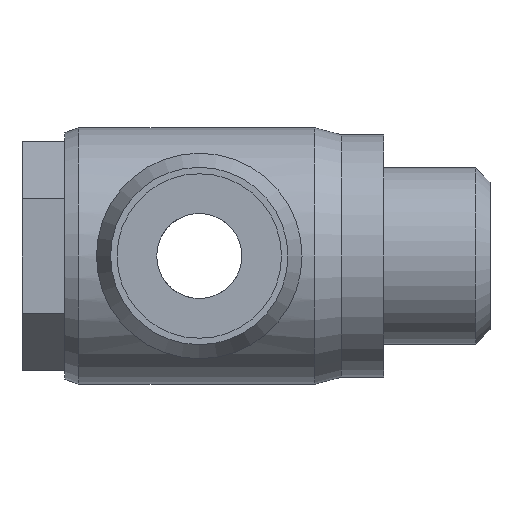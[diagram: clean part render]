
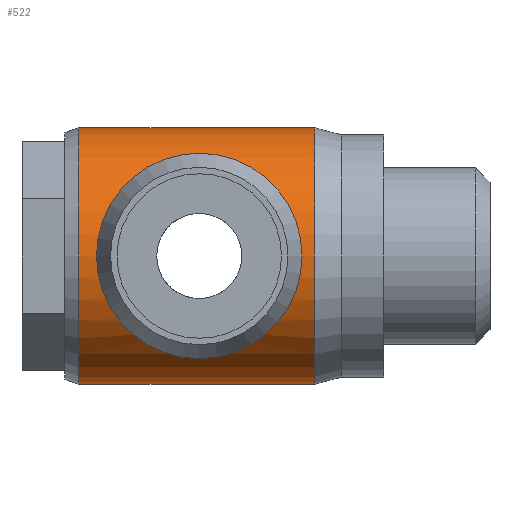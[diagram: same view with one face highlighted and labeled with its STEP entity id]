
A CAD part, left-side view. The second image highlights one B-rep face of the part: STEP entity #522.
In plain terms, the highlighted cylindrical face has radius 9.05 mm (diameter 18.1 mm), a full revolution.
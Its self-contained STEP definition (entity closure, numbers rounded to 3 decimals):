
#71=B_SPLINE_CURVE_WITH_KNOTS($,3,(#921,#922,#923,#924,#925,#926,#927,#928,
#929,#930,#931,#932,#933,#934,#935,#936,#937,#938,#939,#940,#941,#942,#943,
#944,#945,#946,#947,#948,#949,#950,#951,#952,#953,#954),.UNSPECIFIED.,.T.,
 .F.,(4,2,2,2,2,2,2,2,2,2,2,2,2,2,2,2,4),(0.,0.204,0.408,
0.611,0.814,1.017,1.22,1.424,
1.628,1.832,2.036,2.239,2.442,
2.645,2.848,3.052,3.256),
 .UNSPECIFIED.);
#72=B_SPLINE_CURVE_WITH_KNOTS($,3,(#956,#957,#958,#959,#960,#961,#962,#963,
#964,#965,#966,#967,#968,#969,#970,#971,#972,#973,#974,#975,#976,#977,#978,
#979,#980,#981,#982,#983,#984,#985,#986,#987,#988,#989),.UNSPECIFIED.,.T.,
 .F.,(4,2,2,2,2,2,2,2,2,2,2,2,2,2,2,2,4),(0.,0.204,0.408,
0.611,0.814,1.017,1.22,1.424,
1.628,1.832,2.036,2.239,2.442,
2.645,2.848,3.052,3.256),
 .UNSPECIFIED.);
#77=CYLINDRICAL_SURFACE($,#574,9.05);
#114=FACE_BOUND($,#207,.T.);
#115=FACE_BOUND($,#208,.T.);
#116=FACE_BOUND($,#209,.T.);
#117=FACE_BOUND($,#210,.T.);
#207=EDGE_LOOP($,(#439));
#208=EDGE_LOOP($,(#440));
#209=EDGE_LOOP($,(#441));
#210=EDGE_LOOP($,(#442));
#269=CIRCLE($,#575,9.05);
#270=CIRCLE($,#576,9.05);
#314=VERTEX_POINT($,#920);
#315=VERTEX_POINT($,#955);
#316=VERTEX_POINT($,#990);
#317=VERTEX_POINT($,#992);
#367=EDGE_CURVE($,#314,#314,#71,.T.);
#368=EDGE_CURVE($,#315,#315,#72,.T.);
#369=EDGE_CURVE($,#316,#316,#269,.T.);
#370=EDGE_CURVE($,#317,#317,#270,.T.);
#439=ORIENTED_EDGE($,*,*,#367,.F.);
#440=ORIENTED_EDGE($,*,*,#368,.F.);
#441=ORIENTED_EDGE($,*,*,#369,.F.);
#442=ORIENTED_EDGE($,*,*,#370,.T.);
#522=ADVANCED_FACE($,(#114,#115,#116,#117),#77,.T.);
#574=AXIS2_PLACEMENT_3D($,#919,#689,#690);
#575=AXIS2_PLACEMENT_3D($,#991,#691,#692);
#576=AXIS2_PLACEMENT_3D($,#993,#693,#694);
#689=DIRECTION('center_axis',(0.,1.,0.));
#690=DIRECTION('ref_axis',(-1.,0.,0.));
#691=DIRECTION('center_axis',(0.,1.,0.));
#692=DIRECTION('ref_axis',(-1.,0.,0.));
#693=DIRECTION('center_axis',(0.,1.,0.));
#694=DIRECTION('ref_axis',(-1.,0.,0.));
#919=CARTESIAN_POINT('Origin',(0.,0.183,0.));
#920=CARTESIAN_POINT('',(7.372,0.,-5.25));
#921=CARTESIAN_POINT('Ctrl Pts',(7.372,0.,
-5.25));
#922=CARTESIAN_POINT('Ctrl Pts',(7.372,0.68,-5.25));
#923=CARTESIAN_POINT('Ctrl Pts',(7.476,1.389,-5.111));
#924=CARTESIAN_POINT('Ctrl Pts',(7.817,2.675,-4.571));
#925=CARTESIAN_POINT('Ctrl Pts',(8.047,3.254,-4.171));
#926=CARTESIAN_POINT('Ctrl Pts',(8.459,4.168,-3.256));
#927=CARTESIAN_POINT('Ctrl Pts',(8.67,4.57,-2.677));
#928=CARTESIAN_POINT('Ctrl Pts',(8.967,5.111,-1.387));
#929=CARTESIAN_POINT('Ctrl Pts',(9.05,5.25,-0.677));
#930=CARTESIAN_POINT('Ctrl Pts',(9.05,5.25,0.677));
#931=CARTESIAN_POINT('Ctrl Pts',(8.967,5.111,1.387));
#932=CARTESIAN_POINT('Ctrl Pts',(8.67,4.57,2.677));
#933=CARTESIAN_POINT('Ctrl Pts',(8.459,4.168,3.256));
#934=CARTESIAN_POINT('Ctrl Pts',(8.047,3.254,4.171));
#935=CARTESIAN_POINT('Ctrl Pts',(7.817,2.675,4.571));
#936=CARTESIAN_POINT('Ctrl Pts',(7.476,1.389,5.111));
#937=CARTESIAN_POINT('Ctrl Pts',(7.372,0.68,5.25));
#938=CARTESIAN_POINT('Ctrl Pts',(7.372,-0.68,5.25));
#939=CARTESIAN_POINT('Ctrl Pts',(7.476,-1.389,5.111));
#940=CARTESIAN_POINT('Ctrl Pts',(7.817,-2.675,4.571));
#941=CARTESIAN_POINT('Ctrl Pts',(8.047,-3.254,4.171));
#942=CARTESIAN_POINT('Ctrl Pts',(8.459,-4.168,3.256));
#943=CARTESIAN_POINT('Ctrl Pts',(8.67,-4.57,2.677));
#944=CARTESIAN_POINT('Ctrl Pts',(8.967,-5.111,1.387));
#945=CARTESIAN_POINT('Ctrl Pts',(9.05,-5.25,0.677));
#946=CARTESIAN_POINT('Ctrl Pts',(9.05,-5.25,-0.677));
#947=CARTESIAN_POINT('Ctrl Pts',(8.967,-5.111,-1.387));
#948=CARTESIAN_POINT('Ctrl Pts',(8.67,-4.57,-2.677));
#949=CARTESIAN_POINT('Ctrl Pts',(8.459,-4.168,-3.256));
#950=CARTESIAN_POINT('Ctrl Pts',(8.047,-3.254,-4.171));
#951=CARTESIAN_POINT('Ctrl Pts',(7.817,-2.675,-4.571));
#952=CARTESIAN_POINT('Ctrl Pts',(7.476,-1.389,-5.111));
#953=CARTESIAN_POINT('Ctrl Pts',(7.372,-0.68,-5.25));
#954=CARTESIAN_POINT('Ctrl Pts',(7.372,0.,
-5.25));
#955=CARTESIAN_POINT('',(-7.372,0.,-5.25));
#956=CARTESIAN_POINT('Ctrl Pts',(-7.372,0.,
-5.25));
#957=CARTESIAN_POINT('Ctrl Pts',(-7.372,-0.68,-5.25));
#958=CARTESIAN_POINT('Ctrl Pts',(-7.476,-1.389,-5.111));
#959=CARTESIAN_POINT('Ctrl Pts',(-7.817,-2.675,-4.571));
#960=CARTESIAN_POINT('Ctrl Pts',(-8.047,-3.254,-4.171));
#961=CARTESIAN_POINT('Ctrl Pts',(-8.459,-4.168,-3.256));
#962=CARTESIAN_POINT('Ctrl Pts',(-8.67,-4.57,-2.677));
#963=CARTESIAN_POINT('Ctrl Pts',(-8.967,-5.111,-1.387));
#964=CARTESIAN_POINT('Ctrl Pts',(-9.05,-5.25,-0.677));
#965=CARTESIAN_POINT('Ctrl Pts',(-9.05,-5.25,0.677));
#966=CARTESIAN_POINT('Ctrl Pts',(-8.967,-5.111,1.387));
#967=CARTESIAN_POINT('Ctrl Pts',(-8.67,-4.57,2.677));
#968=CARTESIAN_POINT('Ctrl Pts',(-8.459,-4.168,3.256));
#969=CARTESIAN_POINT('Ctrl Pts',(-8.047,-3.254,4.171));
#970=CARTESIAN_POINT('Ctrl Pts',(-7.817,-2.675,4.571));
#971=CARTESIAN_POINT('Ctrl Pts',(-7.476,-1.389,5.111));
#972=CARTESIAN_POINT('Ctrl Pts',(-7.372,-0.68,5.25));
#973=CARTESIAN_POINT('Ctrl Pts',(-7.372,0.68,5.25));
#974=CARTESIAN_POINT('Ctrl Pts',(-7.476,1.389,5.111));
#975=CARTESIAN_POINT('Ctrl Pts',(-7.817,2.675,4.571));
#976=CARTESIAN_POINT('Ctrl Pts',(-8.047,3.254,4.171));
#977=CARTESIAN_POINT('Ctrl Pts',(-8.459,4.168,3.256));
#978=CARTESIAN_POINT('Ctrl Pts',(-8.67,4.57,2.677));
#979=CARTESIAN_POINT('Ctrl Pts',(-8.967,5.111,1.387));
#980=CARTESIAN_POINT('Ctrl Pts',(-9.05,5.25,0.677));
#981=CARTESIAN_POINT('Ctrl Pts',(-9.05,5.25,-0.677));
#982=CARTESIAN_POINT('Ctrl Pts',(-8.967,5.111,-1.387));
#983=CARTESIAN_POINT('Ctrl Pts',(-8.67,4.57,-2.677));
#984=CARTESIAN_POINT('Ctrl Pts',(-8.459,4.168,-3.256));
#985=CARTESIAN_POINT('Ctrl Pts',(-8.047,3.254,-4.171));
#986=CARTESIAN_POINT('Ctrl Pts',(-7.817,2.675,-4.571));
#987=CARTESIAN_POINT('Ctrl Pts',(-7.476,1.389,-5.111));
#988=CARTESIAN_POINT('Ctrl Pts',(-7.372,0.68,-5.25));
#989=CARTESIAN_POINT('Ctrl Pts',(-7.372,0.,
-5.25));
#990=CARTESIAN_POINT('',(-9.05,8.5,0.));
#991=CARTESIAN_POINT('Origin',(0.,8.5,0.));
#992=CARTESIAN_POINT('',(-9.05,-8.134,0.));
#993=CARTESIAN_POINT('Origin',(0.,-8.134,0.));
